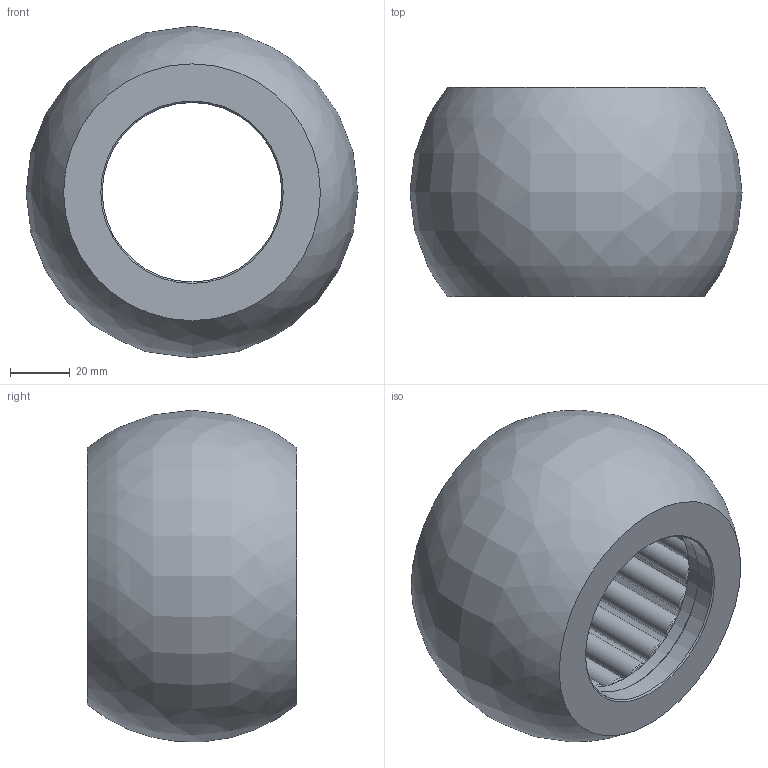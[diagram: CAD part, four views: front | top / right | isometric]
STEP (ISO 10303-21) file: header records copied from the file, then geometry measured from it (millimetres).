
FILE_DESCRIPTION(('STEP AP214'),'1');
FILE_NAME('C:/Projets/Serie 15.xx.xx/15.xx.59.step','2011-11-14T14:45:16',(' '),(' '),'Spatial InterOp 3D',' ',' ');
FILE_SCHEMA(('automotive_design'));
Length unit declared in the file: metre
Products named in the file (25): rotule; frette; @2190; @2166
Bounding box: 111 x 70 x 110.85 mm (x, y, z)
Volume: 352717.6 mm3; surface area: 114508.7 mm2
Topology: 25 solids, 25 shells, 299 faces, 565 edges, 362 vertices
Faces by surface type: cylinder 116, plane 96, cone 86, bspline 1
Full cylindrical faces by diameter (mm): 2.8 x42, 3.5 x42, 8 x21, 60 x2, 61 x2, 75 x2, 76 x3, 82 x2
Entity records: 9169 total; most frequent: DIRECTION 1286, CARTESIAN_POINT 991, AXIS2_PLACEMENT_3D 643, EDGE_LOOP 640, ORIENTED_EDGE 640, FACE_OUTER_BOUND 416, EDGE_CURVE 320, VERTEX_POINT 320
